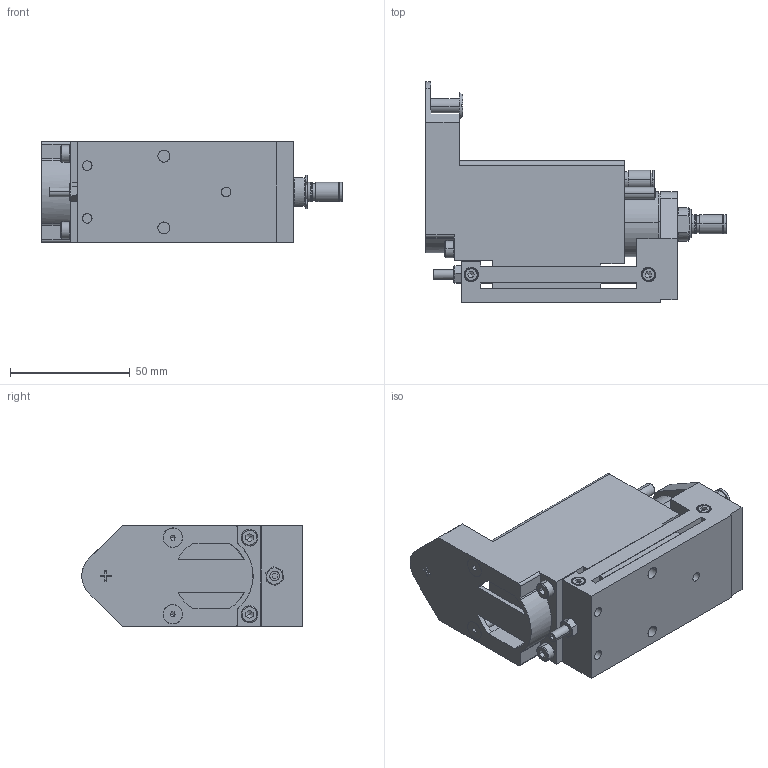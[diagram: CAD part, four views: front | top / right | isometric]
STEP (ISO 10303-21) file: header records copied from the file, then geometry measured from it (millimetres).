
FILE_DESCRIPTION(('STEP AP214'),'1');
FILE_NAME('CA.SNP20.stp','2018-09-20T11:49:18',(' '),(' '),'Spatial InterOp 3D',' ',' ');
FILE_SCHEMA(('AUTOMOTIVE_DESIGN { 1 0 10303 214 1 1 1 1 }'));
Length unit declared in the file: millimetre
Products named in the file (11): CA.SNP20; SNP20_O___}3D_58; SNP20_O___}3D_56; SNP20_O___}3D_54; SNP20_O___}3D_52; SNP20_O___}3D_50; SNP20_O___}3D_48; SNP20_O___}3D_46; SNP20_O___}3D_44; SNP20_O___}3D_42; SNP20_O___}3D_40
Assembly tree (10 placements, depth 2):
  CA.SNP20
    SNP20_O___}3D_58
    SNP20_O___}3D_56
    SNP20_O___}3D_54
    SNP20_O___}3D_52
    SNP20_O___}3D_50
    SNP20_O___}3D_48
    SNP20_O___}3D_46
    SNP20_O___}3D_44
    SNP20_O___}3D_42
    SNP20_O___}3D_40
Bounding box: 125.47 x 92 x 42.03 mm (x, y, z)
Volume: 213567.4 mm3; surface area: 54325.1 mm2
Topology: 10 solids, 10 shells, 692 faces, 1980 edges, 1348 vertices
Faces by surface type: bspline 692
Entity records: 28861 total; most frequent: CARTESIAN_POINT 12279, ORIENTED_EDGE 3896, EDGE_CURVE 1948, VERTEX_POINT 1348, B_SPLINE_CURVE_WITH_KNOTS 937, EDGE_LOOP 794, STYLED_ITEM 692, PRESENTATION_STYLE_ASSIGNMENT 692
